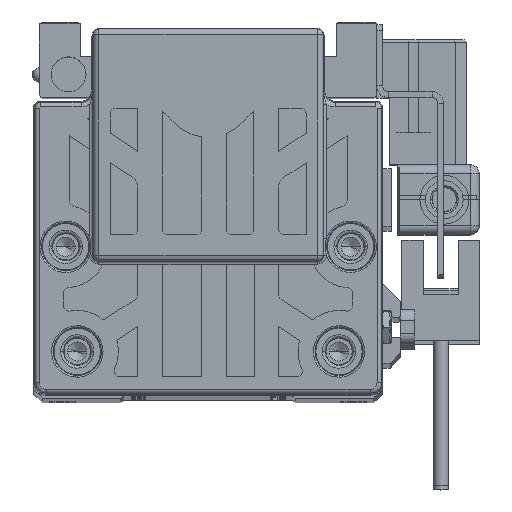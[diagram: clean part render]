
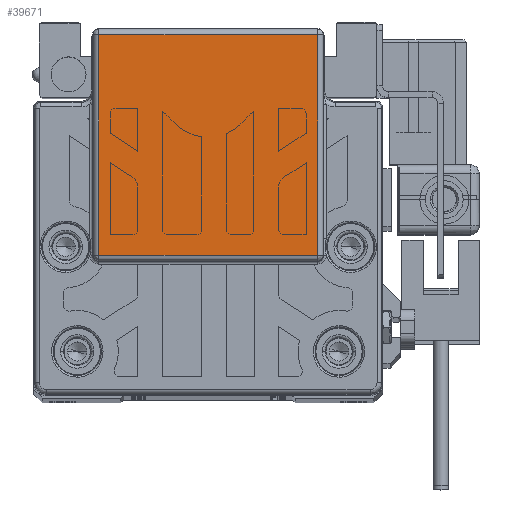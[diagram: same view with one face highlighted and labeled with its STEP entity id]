
A CAD part, top view. The second image highlights one B-rep face of the part: STEP entity #39671.
In plain terms, the highlighted planar face has unit normal (0, 0, 1) as drawn and (0, 0, -1) by its records, which use the part's own axes.
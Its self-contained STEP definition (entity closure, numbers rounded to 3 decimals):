
#65 = DIRECTION ( 'NONE',  ( 0., 1., 0. ) ) ;
#390 = PLANE ( 'NONE',  #15775 ) ;
#5028 = CARTESIAN_POINT ( 'NONE',  ( 19., 24.5, -143. ) ) ;
#5623 = CARTESIAN_POINT ( 'NONE',  ( 18.808, 24.518, -143. ) ) ;
#8852 = LINE ( 'NONE', #48659, #47802 ) ;
#10060 = EDGE_CURVE ( 'NONE', #47544, #25957, #30772, .T. ) ;
#11210 = EDGE_CURVE ( 'NONE', #47544, #50214, #33359, .T. ) ;
#15690 = EDGE_CURVE ( 'NONE', #25957, #21430, #27368, .T. ) ;
#15775 = AXIS2_PLACEMENT_3D ( 'NONE', #5028, #45490, #65 ) ;
#19713 = ORIENTED_EDGE ( 'NONE', *, *, #33057, .F. ) ;
#21430 = VERTEX_POINT ( 'NONE', #5623 ) ;
#25957 = VERTEX_POINT ( 'NONE', #64545 ) ;
#27368 = LINE ( 'NONE', #57803, #62194 ) ;
#28766 = ORIENTED_EDGE ( 'NONE', *, *, #15690, .F. ) ;
#30772 = LINE ( 'NONE', #51613, #51485 ) ;
#33057 = EDGE_CURVE ( 'NONE', #21430, #50214, #8852, .T. ) ;
#33359 = LINE ( 'NONE', #53535, #63187 ) ;
#39671 = ADVANCED_FACE ( 'NONE', ( #50446 ), #390, .T. ) ;
#39729 = CARTESIAN_POINT ( 'NONE',  ( -18.808, 62.447, -143. ) ) ;
#45490 = DIRECTION ( 'NONE',  ( 0., 0., -1. ) ) ;
#47544 = VERTEX_POINT ( 'NONE', #39729 ) ;
#47802 = VECTOR ( 'NONE', #58889, 1000. ) ;
#48659 = CARTESIAN_POINT ( 'NONE',  ( 18.808, 24.5, -143. ) ) ;
#50214 = VERTEX_POINT ( 'NONE', #59770 ) ;
#50446 = FACE_OUTER_BOUND ( 'NONE', #58844, .T. ) ;
#51485 = VECTOR ( 'NONE', #55917, 1000. ) ;
#51613 = CARTESIAN_POINT ( 'NONE',  ( -18.808, 31., -143. ) ) ;
#53535 = CARTESIAN_POINT ( 'NONE',  ( 19., 62.447, -143. ) ) ;
#53618 = ORIENTED_EDGE ( 'NONE', *, *, #11210, .T. ) ;
#55917 = DIRECTION ( 'NONE',  ( 0., -1., 0. ) ) ;
#57803 = CARTESIAN_POINT ( 'NONE',  ( 19., 24.518, -143. ) ) ;
#58844 = EDGE_LOOP ( 'NONE', ( #19713, #28766, #62031, #53618 ) ) ;
#58889 = DIRECTION ( 'NONE',  ( 0., 1., 0. ) ) ;
#59770 = CARTESIAN_POINT ( 'NONE',  ( 18.808, 62.447, -143. ) ) ;
#62031 = ORIENTED_EDGE ( 'NONE', *, *, #10060, .F. ) ;
#62104 = DIRECTION ( 'NONE',  ( 1., 0., 0. ) ) ;
#62194 = VECTOR ( 'NONE', #62104, 1000. ) ;
#63187 = VECTOR ( 'NONE', #64433, 1000. ) ;
#64433 = DIRECTION ( 'NONE',  ( 1., 0., 0. ) ) ;
#64545 = CARTESIAN_POINT ( 'NONE',  ( -18.808, 24.518, -143. ) ) ;
